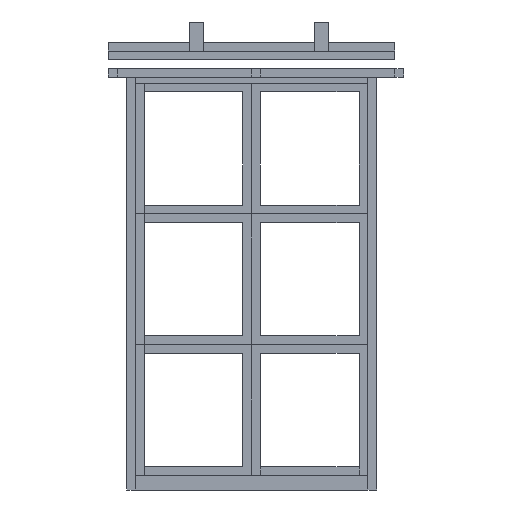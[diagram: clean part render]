
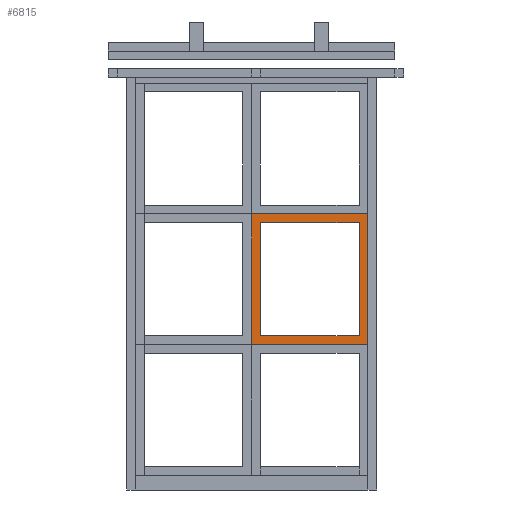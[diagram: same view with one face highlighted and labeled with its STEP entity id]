
A CAD part, front view. The second image highlights one B-rep face of the part: STEP entity #6815.
In plain terms, the highlighted planar face has unit normal (0, -1, 0).
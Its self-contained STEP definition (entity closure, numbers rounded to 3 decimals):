
#6699 = EDGE_CURVE('',#6700,#6702,#6704,.T.);
#6700 = VERTEX_POINT('',#6701);
#6701 = CARTESIAN_POINT('',(860.,0.,1000.));
#6702 = VERTEX_POINT('',#6703);
#6703 = CARTESIAN_POINT('',(860.,0.,1900.));
#6704 = SURFACE_CURVE('',#6705,(#6709,#6721),.PCURVE_S1.);
#6705 = LINE('',#6706,#6707);
#6706 = CARTESIAN_POINT('',(860.,0.,1000.));
#6707 = VECTOR('',#6708,1.);
#6708 = DIRECTION('',(0.,0.,1.));
#6709 = PCURVE('',#6710,#6715);
#6710 = PLANE('',#6711);
#6711 = AXIS2_PLACEMENT_3D('',#6712,#6713,#6714);
#6712 = CARTESIAN_POINT('',(860.,0.,1000.));
#6713 = DIRECTION('',(1.,0.,0.));
#6714 = DIRECTION('',(0.,0.,1.));
#6715 = DEFINITIONAL_REPRESENTATION('',(#6716),#6720);
#6716 = LINE('',#6717,#6718);
#6717 = CARTESIAN_POINT('',(0.,0.));
#6718 = VECTOR('',#6719,1.);
#6719 = DIRECTION('',(1.,0.));
#6720 = ( GEOMETRIC_REPRESENTATION_CONTEXT(2) 
PARAMETRIC_REPRESENTATION_CONTEXT() REPRESENTATION_CONTEXT('2D SPACE',''
  ) );
#6721 = PCURVE('',#6722,#6727);
#6722 = PLANE('',#6723);
#6723 = AXIS2_PLACEMENT_3D('',#6724,#6725,#6726);
#6724 = CARTESIAN_POINT('',(860.,0.,1000.));
#6725 = DIRECTION('',(0.,1.,0.));
#6726 = DIRECTION('',(0.,0.,1.));
#6727 = DEFINITIONAL_REPRESENTATION('',(#6728),#6732);
#6728 = LINE('',#6729,#6730);
#6729 = CARTESIAN_POINT('',(0.,0.));
#6730 = VECTOR('',#6731,1.);
#6731 = DIRECTION('',(1.,0.));
#6732 = ( GEOMETRIC_REPRESENTATION_CONTEXT(2) 
PARAMETRIC_REPRESENTATION_CONTEXT() REPRESENTATION_CONTEXT('2D SPACE',''
  ) );
#6750 = PLANE('',#6751);
#6751 = AXIS2_PLACEMENT_3D('',#6752,#6753,#6754);
#6752 = CARTESIAN_POINT('',(860.,0.,1000.));
#6753 = DIRECTION('',(0.,0.,1.));
#6754 = DIRECTION('',(1.,0.,0.));
#6804 = PLANE('',#6805);
#6805 = AXIS2_PLACEMENT_3D('',#6806,#6807,#6808);
#6806 = CARTESIAN_POINT('',(860.,0.,1900.));
#6807 = DIRECTION('',(0.,0.,1.));
#6808 = DIRECTION('',(1.,0.,0.));
#6815 = ADVANCED_FACE('',(#6816,#6891),#6722,.F.);
#6816 = FACE_BOUND('',#6817,.F.);
#6817 = EDGE_LOOP('',(#6818,#6841,#6842,#6865));
#6818 = ORIENTED_EDGE('',*,*,#6819,.F.);
#6819 = EDGE_CURVE('',#6700,#6820,#6822,.T.);
#6820 = VERTEX_POINT('',#6821);
#6821 = CARTESIAN_POINT('',(1660.,0.,1000.));
#6822 = SURFACE_CURVE('',#6823,(#6827,#6834),.PCURVE_S1.);
#6823 = LINE('',#6824,#6825);
#6824 = CARTESIAN_POINT('',(860.,0.,1000.));
#6825 = VECTOR('',#6826,1.);
#6826 = DIRECTION('',(1.,0.,0.));
#6827 = PCURVE('',#6722,#6828);
#6828 = DEFINITIONAL_REPRESENTATION('',(#6829),#6833);
#6829 = LINE('',#6830,#6831);
#6830 = CARTESIAN_POINT('',(0.,0.));
#6831 = VECTOR('',#6832,1.);
#6832 = DIRECTION('',(0.,1.));
#6833 = ( GEOMETRIC_REPRESENTATION_CONTEXT(2) 
PARAMETRIC_REPRESENTATION_CONTEXT() REPRESENTATION_CONTEXT('2D SPACE',''
  ) );
#6834 = PCURVE('',#6750,#6835);
#6835 = DEFINITIONAL_REPRESENTATION('',(#6836),#6840);
#6836 = LINE('',#6837,#6838);
#6837 = CARTESIAN_POINT('',(0.,0.));
#6838 = VECTOR('',#6839,1.);
#6839 = DIRECTION('',(1.,0.));
#6840 = ( GEOMETRIC_REPRESENTATION_CONTEXT(2) 
PARAMETRIC_REPRESENTATION_CONTEXT() REPRESENTATION_CONTEXT('2D SPACE',''
  ) );
#6841 = ORIENTED_EDGE('',*,*,#6699,.T.);
#6842 = ORIENTED_EDGE('',*,*,#6843,.T.);
#6843 = EDGE_CURVE('',#6702,#6844,#6846,.T.);
#6844 = VERTEX_POINT('',#6845);
#6845 = CARTESIAN_POINT('',(1660.,0.,1900.));
#6846 = SURFACE_CURVE('',#6847,(#6851,#6858),.PCURVE_S1.);
#6847 = LINE('',#6848,#6849);
#6848 = CARTESIAN_POINT('',(860.,0.,1900.));
#6849 = VECTOR('',#6850,1.);
#6850 = DIRECTION('',(1.,0.,0.));
#6851 = PCURVE('',#6722,#6852);
#6852 = DEFINITIONAL_REPRESENTATION('',(#6853),#6857);
#6853 = LINE('',#6854,#6855);
#6854 = CARTESIAN_POINT('',(900.,0.));
#6855 = VECTOR('',#6856,1.);
#6856 = DIRECTION('',(0.,1.));
#6857 = ( GEOMETRIC_REPRESENTATION_CONTEXT(2) 
PARAMETRIC_REPRESENTATION_CONTEXT() REPRESENTATION_CONTEXT('2D SPACE',''
  ) );
#6858 = PCURVE('',#6804,#6859);
#6859 = DEFINITIONAL_REPRESENTATION('',(#6860),#6864);
#6860 = LINE('',#6861,#6862);
#6861 = CARTESIAN_POINT('',(0.,0.));
#6862 = VECTOR('',#6863,1.);
#6863 = DIRECTION('',(1.,0.));
#6864 = ( GEOMETRIC_REPRESENTATION_CONTEXT(2) 
PARAMETRIC_REPRESENTATION_CONTEXT() REPRESENTATION_CONTEXT('2D SPACE',''
  ) );
#6865 = ORIENTED_EDGE('',*,*,#6866,.F.);
#6866 = EDGE_CURVE('',#6820,#6844,#6867,.T.);
#6867 = SURFACE_CURVE('',#6868,(#6872,#6879),.PCURVE_S1.);
#6868 = LINE('',#6869,#6870);
#6869 = CARTESIAN_POINT('',(1660.,0.,1000.));
#6870 = VECTOR('',#6871,1.);
#6871 = DIRECTION('',(0.,0.,1.));
#6872 = PCURVE('',#6722,#6873);
#6873 = DEFINITIONAL_REPRESENTATION('',(#6874),#6878);
#6874 = LINE('',#6875,#6876);
#6875 = CARTESIAN_POINT('',(0.,800.));
#6876 = VECTOR('',#6877,1.);
#6877 = DIRECTION('',(1.,0.));
#6878 = ( GEOMETRIC_REPRESENTATION_CONTEXT(2) 
PARAMETRIC_REPRESENTATION_CONTEXT() REPRESENTATION_CONTEXT('2D SPACE',''
  ) );
#6879 = PCURVE('',#6880,#6885);
#6880 = PLANE('',#6881);
#6881 = AXIS2_PLACEMENT_3D('',#6882,#6883,#6884);
#6882 = CARTESIAN_POINT('',(1660.,0.,1000.));
#6883 = DIRECTION('',(1.,0.,0.));
#6884 = DIRECTION('',(0.,0.,1.));
#6885 = DEFINITIONAL_REPRESENTATION('',(#6886),#6890);
#6886 = LINE('',#6887,#6888);
#6887 = CARTESIAN_POINT('',(0.,0.));
#6888 = VECTOR('',#6889,1.);
#6889 = DIRECTION('',(1.,0.));
#6890 = ( GEOMETRIC_REPRESENTATION_CONTEXT(2) 
PARAMETRIC_REPRESENTATION_CONTEXT() REPRESENTATION_CONTEXT('2D SPACE',''
  ) );
#6891 = FACE_BOUND('',#6892,.F.);
#6892 = EDGE_LOOP('',(#6893,#6921,#6947,#6973));
#6893 = ORIENTED_EDGE('',*,*,#6894,.F.);
#6894 = EDGE_CURVE('',#6895,#6897,#6899,.T.);
#6895 = VERTEX_POINT('',#6896);
#6896 = CARTESIAN_POINT('',(920.,0.,1840.));
#6897 = VERTEX_POINT('',#6898);
#6898 = CARTESIAN_POINT('',(1600.,0.,1840.));
#6899 = SURFACE_CURVE('',#6900,(#6904,#6910),.PCURVE_S1.);
#6900 = LINE('',#6901,#6902);
#6901 = CARTESIAN_POINT('',(890.,0.,1840.));
#6902 = VECTOR('',#6903,1.);
#6903 = DIRECTION('',(1.,0.,0.));
#6904 = PCURVE('',#6722,#6905);
#6905 = DEFINITIONAL_REPRESENTATION('',(#6906),#6909);
#6906 = B_SPLINE_CURVE_WITH_KNOTS('',1,(#6907,#6908),.UNSPECIFIED.,.F.,
  .F.,(2,2),(30.,710.),.PIECEWISE_BEZIER_KNOTS.);
#6907 = CARTESIAN_POINT('',(840.,60.));
#6908 = CARTESIAN_POINT('',(840.,740.));
#6909 = ( GEOMETRIC_REPRESENTATION_CONTEXT(2) 
PARAMETRIC_REPRESENTATION_CONTEXT() REPRESENTATION_CONTEXT('2D SPACE',''
  ) );
#6910 = PCURVE('',#6911,#6916);
#6911 = PLANE('',#6912);
#6912 = AXIS2_PLACEMENT_3D('',#6913,#6914,#6915);
#6913 = CARTESIAN_POINT('',(920.,-1.,1840.));
#6914 = DIRECTION('',(0.,0.,1.));
#6915 = DIRECTION('',(1.,0.,0.));
#6916 = DEFINITIONAL_REPRESENTATION('',(#6917),#6920);
#6917 = B_SPLINE_CURVE_WITH_KNOTS('',1,(#6918,#6919),.UNSPECIFIED.,.F.,
  .F.,(2,2),(30.,710.),.PIECEWISE_BEZIER_KNOTS.);
#6918 = CARTESIAN_POINT('',(0.,1.));
#6919 = CARTESIAN_POINT('',(680.,1.));
#6920 = ( GEOMETRIC_REPRESENTATION_CONTEXT(2) 
PARAMETRIC_REPRESENTATION_CONTEXT() REPRESENTATION_CONTEXT('2D SPACE',''
  ) );
#6921 = ORIENTED_EDGE('',*,*,#6922,.T.);
#6922 = EDGE_CURVE('',#6895,#6923,#6925,.T.);
#6923 = VERTEX_POINT('',#6924);
#6924 = CARTESIAN_POINT('',(920.,0.,1060.));
#6925 = SURFACE_CURVE('',#6926,(#6930,#6936),.PCURVE_S1.);
#6926 = LINE('',#6927,#6928);
#6927 = CARTESIAN_POINT('',(920.,0.,1030.));
#6928 = VECTOR('',#6929,1.);
#6929 = DIRECTION('',(0.,0.,-1.));
#6930 = PCURVE('',#6722,#6931);
#6931 = DEFINITIONAL_REPRESENTATION('',(#6932),#6935);
#6932 = B_SPLINE_CURVE_WITH_KNOTS('',1,(#6933,#6934),.UNSPECIFIED.,.F.,
  .F.,(2,2),(-810.,-30.),.PIECEWISE_BEZIER_KNOTS.);
#6933 = CARTESIAN_POINT('',(840.,60.));
#6934 = CARTESIAN_POINT('',(60.,60.));
#6935 = ( GEOMETRIC_REPRESENTATION_CONTEXT(2) 
PARAMETRIC_REPRESENTATION_CONTEXT() REPRESENTATION_CONTEXT('2D SPACE',''
  ) );
#6936 = PCURVE('',#6937,#6942);
#6937 = PLANE('',#6938);
#6938 = AXIS2_PLACEMENT_3D('',#6939,#6940,#6941);
#6939 = CARTESIAN_POINT('',(920.,-1.,1060.));
#6940 = DIRECTION('',(1.,0.,0.));
#6941 = DIRECTION('',(0.,0.,1.));
#6942 = DEFINITIONAL_REPRESENTATION('',(#6943),#6946);
#6943 = B_SPLINE_CURVE_WITH_KNOTS('',1,(#6944,#6945),.UNSPECIFIED.,.F.,
  .F.,(2,2),(-810.,-30.),.PIECEWISE_BEZIER_KNOTS.);
#6944 = CARTESIAN_POINT('',(780.,-1.));
#6945 = CARTESIAN_POINT('',(0.,-1.));
#6946 = ( GEOMETRIC_REPRESENTATION_CONTEXT(2) 
PARAMETRIC_REPRESENTATION_CONTEXT() REPRESENTATION_CONTEXT('2D SPACE',''
  ) );
#6947 = ORIENTED_EDGE('',*,*,#6948,.T.);
#6948 = EDGE_CURVE('',#6923,#6949,#6951,.T.);
#6949 = VERTEX_POINT('',#6950);
#6950 = CARTESIAN_POINT('',(1600.,0.,1060.));
#6951 = SURFACE_CURVE('',#6952,(#6956,#6962),.PCURVE_S1.);
#6952 = LINE('',#6953,#6954);
#6953 = CARTESIAN_POINT('',(890.,0.,1060.));
#6954 = VECTOR('',#6955,1.);
#6955 = DIRECTION('',(1.,0.,0.));
#6956 = PCURVE('',#6722,#6957);
#6957 = DEFINITIONAL_REPRESENTATION('',(#6958),#6961);
#6958 = B_SPLINE_CURVE_WITH_KNOTS('',1,(#6959,#6960),.UNSPECIFIED.,.F.,
  .F.,(2,2),(30.,710.),.PIECEWISE_BEZIER_KNOTS.);
#6959 = CARTESIAN_POINT('',(60.,60.));
#6960 = CARTESIAN_POINT('',(60.,740.));
#6961 = ( GEOMETRIC_REPRESENTATION_CONTEXT(2) 
PARAMETRIC_REPRESENTATION_CONTEXT() REPRESENTATION_CONTEXT('2D SPACE',''
  ) );
#6962 = PCURVE('',#6963,#6968);
#6963 = PLANE('',#6964);
#6964 = AXIS2_PLACEMENT_3D('',#6965,#6966,#6967);
#6965 = CARTESIAN_POINT('',(920.,-1.,1060.));
#6966 = DIRECTION('',(0.,0.,1.));
#6967 = DIRECTION('',(1.,0.,0.));
#6968 = DEFINITIONAL_REPRESENTATION('',(#6969),#6972);
#6969 = B_SPLINE_CURVE_WITH_KNOTS('',1,(#6970,#6971),.UNSPECIFIED.,.F.,
  .F.,(2,2),(30.,710.),.PIECEWISE_BEZIER_KNOTS.);
#6970 = CARTESIAN_POINT('',(0.,1.));
#6971 = CARTESIAN_POINT('',(680.,1.));
#6972 = ( GEOMETRIC_REPRESENTATION_CONTEXT(2) 
PARAMETRIC_REPRESENTATION_CONTEXT() REPRESENTATION_CONTEXT('2D SPACE',''
  ) );
#6973 = ORIENTED_EDGE('',*,*,#6974,.F.);
#6974 = EDGE_CURVE('',#6897,#6949,#6975,.T.);
#6975 = SURFACE_CURVE('',#6976,(#6980,#6986),.PCURVE_S1.);
#6976 = LINE('',#6977,#6978);
#6977 = CARTESIAN_POINT('',(1600.,0.,1030.));
#6978 = VECTOR('',#6979,1.);
#6979 = DIRECTION('',(0.,0.,-1.));
#6980 = PCURVE('',#6722,#6981);
#6981 = DEFINITIONAL_REPRESENTATION('',(#6982),#6985);
#6982 = B_SPLINE_CURVE_WITH_KNOTS('',1,(#6983,#6984),.UNSPECIFIED.,.F.,
  .F.,(2,2),(-810.,-30.),.PIECEWISE_BEZIER_KNOTS.);
#6983 = CARTESIAN_POINT('',(840.,740.));
#6984 = CARTESIAN_POINT('',(60.,740.));
#6985 = ( GEOMETRIC_REPRESENTATION_CONTEXT(2) 
PARAMETRIC_REPRESENTATION_CONTEXT() REPRESENTATION_CONTEXT('2D SPACE',''
  ) );
#6986 = PCURVE('',#6987,#6992);
#6987 = PLANE('',#6988);
#6988 = AXIS2_PLACEMENT_3D('',#6989,#6990,#6991);
#6989 = CARTESIAN_POINT('',(1600.,-1.,1060.));
#6990 = DIRECTION('',(1.,0.,0.));
#6991 = DIRECTION('',(0.,0.,1.));
#6992 = DEFINITIONAL_REPRESENTATION('',(#6993),#6996);
#6993 = B_SPLINE_CURVE_WITH_KNOTS('',1,(#6994,#6995),.UNSPECIFIED.,.F.,
  .F.,(2,2),(-810.,-30.),.PIECEWISE_BEZIER_KNOTS.);
#6994 = CARTESIAN_POINT('',(780.,-1.));
#6995 = CARTESIAN_POINT('',(0.,-1.));
#6996 = ( GEOMETRIC_REPRESENTATION_CONTEXT(2) 
PARAMETRIC_REPRESENTATION_CONTEXT() REPRESENTATION_CONTEXT('2D SPACE',''
  ) );
